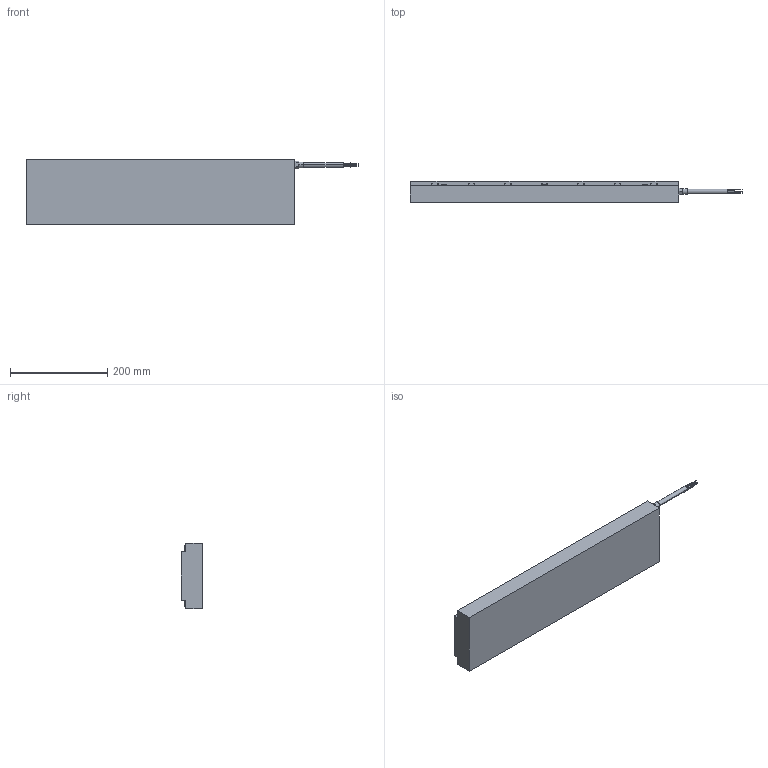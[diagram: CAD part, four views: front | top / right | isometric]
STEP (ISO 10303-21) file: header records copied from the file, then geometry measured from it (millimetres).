
FILE_DESCRIPTION((''),'2;1');
FILE_NAME('IC33_100','2010-03-09T',('brad.winesett'),('Kollmorgen'),'PRO/ENGINEER BY PARAMETRIC TECHNOLOGY CORPORATION, 2006510','PRO/ENGINEER BY PARAMETRIC TECHNOLOGY CORPORATION, 2006510','');
FILE_SCHEMA(('CONFIG_CONTROL_DESIGN'));
Length unit declared in the file: millimetre
Products named in the file (1): IC33_100
Bounding box: 682.2 x 43.3 x 135 mm (x, y, z)
Volume: 3071754.3 mm3; surface area: 246537.9 mm2
Topology: 1 solids, 22 shells, 361 faces, 900 edges, 579 vertices
Faces by surface type: plane 187, cylinder 132, cone 42
Entity records: 10510 total; most frequent: DIRECTION 1888, CARTESIAN_POINT 1799, ORIENTED_EDGE 1632, EDGE_CURVE 858, AXIS2_PLACEMENT_3D 668, VERTEX_POINT 579, VECTOR 552, LINE 552
